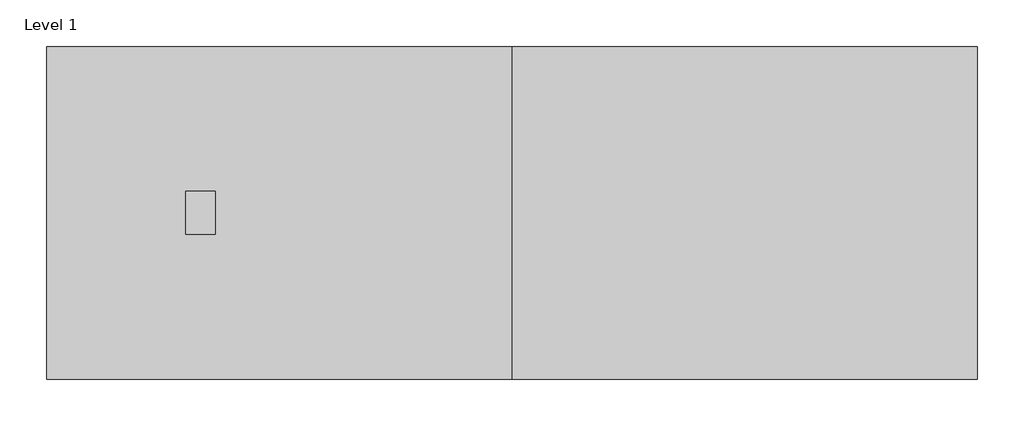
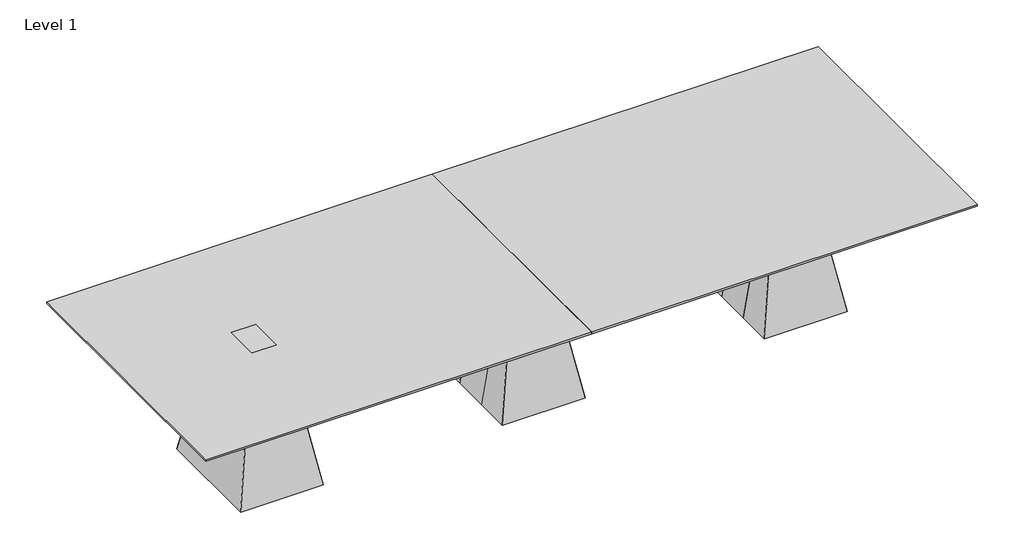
# One storey: 25 proxies.
"""IFC4 building model written with IfcOpenShell, lengths in millimetres."""

from ifc_helpers import new_model, si_unit, origin, place, context, project, spatial, transform, mapped, element, save
from components import generic_models_51c01d00, generic_models_597a183f, generic_models_c5b3a9b2, generic_models_d6f1b84a, generic_models_e4cfc86e, generic_models_6a6425c0, generic_models_c6574abe, generic_models_c5948c30, generic_models_5c3ddc13, generic_models_d9a1c585, generic_models_194ffc6f, generic_models_9ee26a7e, generic_models_b4308882, generic_models_69105aee, generic_models_d5f98654, generic_models_97a5e2a9, generic_models_23fda1b8

model = new_model("IFC4")

# Units and contexts
model_context = context("Model", 3, world=origin())
ifc_project = project(units=[si_unit("LENGTHUNIT", "METRE", prefix="MILLI")], contexts=[model_context])

# Site, building, storey
site = spatial("IfcSite", under=ifc_project)
building = spatial("IfcBuilding", under=site)
storey = spatial("IfcBuildingStorey", under=building, Name="Level 1", Elevation=0.0)

# Proxies
placement = place(None, origin())
generic_models_shape = generic_models_51c01d00(model_context)
element("IfcBuildingElementProxy", 1, Name="GRADIENT^TABLE 7_PYRAMID BASES-END BASE LEFT WING", ObjectType="GRADIENT^TABLE 7_PYRAMID BASES-END BASE LEFT WING", at=placement, inside=storey, context=model_context, shape_type="MappedRepresentation", body=[
    mapped(generic_models_shape, transform((0.0, 0.0, 0.0), x_axis=(1.0, 0.0, 0.0), y_axis=(0.0, 0.0, 1.0), z_axis=(0.0, -1.0, 0.0))),
])
element("IfcBuildingElementProxy", 2, Name="GRADIENT^TABLE 7_PYRAMID BASES-END BASE LEFT WING", ObjectType="GRADIENT^TABLE 7_PYRAMID BASES-END BASE LEFT WING", at=placement, inside=storey, context=model_context, shape_type="MappedRepresentation", body=[
    mapped(generic_models_shape, transform((4267.2, 1524.0, 0.0), x_axis=(-1.0, 0.0, 0.0), y_axis=(0.0, 0.0, 1.0), z_axis=(0.0, 1.0, 0.0))),
])
generic_models_2_shape = generic_models_597a183f(model_context)
element("IfcBuildingElementProxy", 3, Name="GRADIENT^TABLE 7_PYRAMID BASES-END BASE RIGHT SIDE", ObjectType="GRADIENT^TABLE 7_PYRAMID BASES-END BASE RIGHT SIDE", at=placement, inside=storey, context=model_context, shape_type="MappedRepresentation", body=[
    mapped(generic_models_2_shape, transform((4267.2, 1524.0, 0.0), x_axis=(-1.0, 0.0, 0.0), y_axis=(0.0, 0.0, 1.0), z_axis=(0.0, 1.0, 0.0))),
])
element("IfcBuildingElementProxy", 4, Name="GRADIENT^TABLE 7_PYRAMID BASES-END BASE RIGHT SIDE", ObjectType="GRADIENT^TABLE 7_PYRAMID BASES-END BASE RIGHT SIDE", at=placement, inside=storey, context=model_context, shape_type="MappedRepresentation", body=[
    mapped(generic_models_2_shape, transform((0.0, 0.0, 0.0), x_axis=(1.0, 0.0, 0.0), y_axis=(0.0, 0.0, 1.0), z_axis=(0.0, -1.0, 0.0))),
])
generic_models_3_shape = generic_models_c5b3a9b2(model_context)
element("IfcBuildingElementProxy", 5, Name="GRADIENT^TABLE 7_PYRAMID BASES-END BASE LEFT SIDE", ObjectType="GRADIENT^TABLE 7_PYRAMID BASES-END BASE LEFT SIDE", at=placement, inside=storey, context=model_context, shape_type="MappedRepresentation", body=[
    mapped(generic_models_3_shape, transform((4267.2, 1524.0, 0.0), x_axis=(-1.0, 0.0, 0.0), y_axis=(0.0, 0.0, 1.0), z_axis=(0.0, 1.0, 0.0))),
])
element("IfcBuildingElementProxy", 6, Name="GRADIENT^TABLE 7_PYRAMID BASES-END BASE LEFT SIDE", ObjectType="GRADIENT^TABLE 7_PYRAMID BASES-END BASE LEFT SIDE", at=placement, inside=storey, context=model_context, shape_type="MappedRepresentation", body=[
    mapped(generic_models_3_shape, transform((0.0, 0.0, 0.0), x_axis=(1.0, 0.0, 0.0), y_axis=(0.0, 0.0, 1.0), z_axis=(0.0, -1.0, 0.0))),
])
generic_models_4_shape = generic_models_d6f1b84a(model_context)
element("IfcBuildingElementProxy", 7, Name="GRADIENT^TABLE 7_PYRAMID BASES-CTR BASE LEFT SIDE", ObjectType="GRADIENT^TABLE 7_PYRAMID BASES-CTR BASE LEFT SIDE", at=placement, inside=storey, context=model_context, shape_type="MappedRepresentation", body=[
    mapped(generic_models_4_shape, transform((0.0, 0.0, 0.0), x_axis=(1.0, 0.0, 0.0), y_axis=(0.0, 0.0, 1.0), z_axis=(0.0, -1.0, 0.0))),
])
generic_models_5_shape = generic_models_e4cfc86e(model_context)
element("IfcBuildingElementProxy", 8, Name="GRADIENT^TABLE 7_PYRAMID BASES-CTR BASE RIGHT WING", ObjectType="GRADIENT^TABLE 7_PYRAMID BASES-CTR BASE RIGHT WING", at=placement, inside=storey, context=model_context, shape_type="MappedRepresentation", body=[
    mapped(generic_models_5_shape, transform((0.0, 0.0, 0.0), x_axis=(1.0, 0.0, 0.0), y_axis=(0.0, 0.0, 1.0), z_axis=(0.0, -1.0, 0.0))),
])
generic_models_6_shape = generic_models_6a6425c0(model_context)
element("IfcBuildingElementProxy", 9, Name="GRADIENT^TABLE 7_PYRAMID BASES-END BASE BOTTOM", ObjectType="GRADIENT^TABLE 7_PYRAMID BASES-END BASE BOTTOM", at=placement, inside=storey, context=model_context, shape_type="MappedRepresentation", body=[
    mapped(generic_models_6_shape, transform((0.0, 0.0, 0.0), x_axis=(1.0, 0.0, 0.0), y_axis=(0.0, 0.0, 1.0), z_axis=(0.0, -1.0, 0.0))),
])
element("IfcBuildingElementProxy", 10, Name="GRADIENT^TABLE 7_PYRAMID BASES-END BASE BOTTOM", ObjectType="GRADIENT^TABLE 7_PYRAMID BASES-END BASE BOTTOM", at=placement, inside=storey, context=model_context, shape_type="MappedRepresentation", body=[
    mapped(generic_models_6_shape, transform((4267.2, 1524.0, 0.0), x_axis=(-1.0, 0.0, 0.0), y_axis=(0.0, 0.0, 1.0), z_axis=(0.0, 1.0, 0.0))),
])
generic_models_7_shape = generic_models_c6574abe(model_context)
element("IfcBuildingElementProxy", 11, Name="GRADIENT^TABLE 7_PYRAMID BASES-END BASE RIGHT WING", ObjectType="GRADIENT^TABLE 7_PYRAMID BASES-END BASE RIGHT WING", at=placement, inside=storey, context=model_context, shape_type="MappedRepresentation", body=[
    mapped(generic_models_7_shape, transform((4267.2, 1524.0, 0.0), x_axis=(-1.0, 0.0, 0.0), y_axis=(0.0, 0.0, 1.0), z_axis=(0.0, 1.0, 0.0))),
])
element("IfcBuildingElementProxy", 12, Name="GRADIENT^TABLE 7_PYRAMID BASES-END BASE RIGHT WING", ObjectType="GRADIENT^TABLE 7_PYRAMID BASES-END BASE RIGHT WING", at=placement, inside=storey, context=model_context, shape_type="MappedRepresentation", body=[
    mapped(generic_models_7_shape, transform((0.0, 0.0, 0.0), x_axis=(1.0, 0.0, 0.0), y_axis=(0.0, 0.0, 1.0), z_axis=(0.0, -1.0, 0.0))),
])
generic_models_8_shape = generic_models_c5948c30(model_context)
element("IfcBuildingElementProxy", 13, Name="GRADIENT^TABLE 7_PYRAMID BASES-RIGHT TOP", ObjectType="GRADIENT^TABLE 7_PYRAMID BASES-RIGHT TOP", at=placement, inside=storey, context=model_context, shape_type="MappedRepresentation", body=[
    mapped(generic_models_8_shape, transform((0.0, 0.0, 0.0), x_axis=(1.0, 0.0, 0.0), y_axis=(0.0, 0.0, 1.0), z_axis=(0.0, -1.0, 0.0))),
])
generic_models_9_shape = generic_models_5c3ddc13(model_context)
element("IfcBuildingElementProxy", 14, Name="GRADIENT^TABLE 7_PYRAMID BASES-END BASE BACK", ObjectType="GRADIENT^TABLE 7_PYRAMID BASES-END BASE BACK", at=placement, inside=storey, context=model_context, shape_type="MappedRepresentation", body=[
    mapped(generic_models_9_shape, transform((4267.2, 1524.0, 0.0), x_axis=(-1.0, 0.0, 0.0), y_axis=(0.0, 0.0, 1.0), z_axis=(0.0, 1.0, 0.0))),
])
element("IfcBuildingElementProxy", 15, Name="GRADIENT^TABLE 7_PYRAMID BASES-END BASE BACK", ObjectType="GRADIENT^TABLE 7_PYRAMID BASES-END BASE BACK", at=placement, inside=storey, context=model_context, shape_type="MappedRepresentation", body=[
    mapped(generic_models_9_shape, transform((0.0, 0.0, 0.0), x_axis=(1.0, 0.0, 0.0), y_axis=(0.0, 0.0, 1.0), z_axis=(0.0, -1.0, 0.0))),
])
generic_models_10_shape = generic_models_d9a1c585(model_context)
element("IfcBuildingElementProxy", 16, Name="GRADIENT^TABLE 7_PYRAMID BASES-CTR BASE BACK", ObjectType="GRADIENT^TABLE 7_PYRAMID BASES-CTR BASE BACK", at=placement, inside=storey, context=model_context, shape_type="MappedRepresentation", body=[
    mapped(generic_models_10_shape, transform((0.0, 0.0, 0.0), x_axis=(1.0, 0.0, 0.0), y_axis=(0.0, 0.0, 1.0), z_axis=(0.0, -1.0, 0.0))),
])
generic_models_11_shape = generic_models_194ffc6f(model_context)
element("IfcBuildingElementProxy", 17, Name="GRADIENT^TABLE 7_PYRAMID BASES-POWER LID", ObjectType="GRADIENT^TABLE 7_PYRAMID BASES-POWER LID", at=placement, inside=storey, context=model_context, shape_type="MappedRepresentation", body=[
    mapped(generic_models_11_shape, transform((772.5058489, 860.425, 19.05), x_axis=(0.0, -1.0, 0.0), y_axis=(0.0, 0.0, 1.0), z_axis=(-1.0, 0.0, 0.0))),
])
element("IfcBuildingElementProxy", 18, Name="GRADIENT^TABLE 7_PYRAMID BASES-POWER LID", ObjectType="GRADIENT^TABLE 7_PYRAMID BASES-POWER LID", at=placement, inside=storey, context=model_context, shape_type="MappedRepresentation", body=[
    mapped(generic_models_11_shape, transform((3494.6941511, 663.575, 19.05), x_axis=(0.0, 1.0, 0.0), y_axis=(0.0, 0.0, 1.0), z_axis=(1.0, 0.0, 0.0))),
])
generic_models_12_shape = generic_models_9ee26a7e(model_context)
element("IfcBuildingElementProxy", 19, Name="GRADIENT^TABLE 7_PYRAMID BASES-END BASE ACCESS", ObjectType="GRADIENT^TABLE 7_PYRAMID BASES-END BASE ACCESS", at=placement, inside=storey, context=model_context, shape_type="MappedRepresentation", body=[
    mapped(generic_models_12_shape, transform((0.0, 0.0, 0.0), x_axis=(1.0, 0.0, 0.0), y_axis=(0.0, 0.0, 1.0), z_axis=(0.0, -1.0, 0.0))),
])
element("IfcBuildingElementProxy", 20, Name="GRADIENT^TABLE 7_PYRAMID BASES-END BASE ACCESS", ObjectType="GRADIENT^TABLE 7_PYRAMID BASES-END BASE ACCESS", at=placement, inside=storey, context=model_context, shape_type="MappedRepresentation", body=[
    mapped(generic_models_12_shape, transform((4267.2, 1524.0, 0.0), x_axis=(-1.0, 0.0, 0.0), y_axis=(0.0, 0.0, 1.0), z_axis=(0.0, 1.0, 0.0))),
])
generic_models_13_shape = generic_models_b4308882(model_context)
element("IfcBuildingElementProxy", 21, Name="GRADIENT^TABLE 7_PYRAMID BASES-CTR BASE LEFT WING", ObjectType="GRADIENT^TABLE 7_PYRAMID BASES-CTR BASE LEFT WING", at=placement, inside=storey, context=model_context, shape_type="MappedRepresentation", body=[
    mapped(generic_models_13_shape, transform((0.0, 0.0, 0.0), x_axis=(1.0, 0.0, 0.0), y_axis=(0.0, 0.0, 1.0), z_axis=(0.0, -1.0, 0.0))),
])
generic_models_14_shape = generic_models_69105aee(model_context)
element("IfcBuildingElementProxy", 22, Name="GRADIENT^TABLE 7_PYRAMID BASES-CTR BASE ACCESS", ObjectType="GRADIENT^TABLE 7_PYRAMID BASES-CTR BASE ACCESS", at=placement, inside=storey, context=model_context, shape_type="MappedRepresentation", body=[
    mapped(generic_models_14_shape, transform((0.0, 0.0, 0.0), x_axis=(1.0, 0.0, 0.0), y_axis=(0.0, 0.0, 1.0), z_axis=(0.0, -1.0, 0.0))),
])
generic_models_15_shape = generic_models_d5f98654(model_context)
element("IfcBuildingElementProxy", 23, Name="GRADIENT^TABLE 7_PYRAMID BASES-LEFT TOP", ObjectType="GRADIENT^TABLE 7_PYRAMID BASES-LEFT TOP", at=placement, inside=storey, context=model_context, shape_type="MappedRepresentation", body=[
    mapped(generic_models_15_shape, transform((0.0, 0.0, 0.0), x_axis=(1.0, 0.0, 0.0), y_axis=(0.0, 0.0, 1.0), z_axis=(0.0, -1.0, 0.0))),
])
generic_models_16_shape = generic_models_97a5e2a9(model_context)
element("IfcBuildingElementProxy", 24, Name="GRADIENT^TABLE 7_PYRAMID BASES-CTR BASE BOTTOM", ObjectType="GRADIENT^TABLE 7_PYRAMID BASES-CTR BASE BOTTOM", at=placement, inside=storey, context=model_context, shape_type="MappedRepresentation", body=[
    mapped(generic_models_16_shape, transform((0.0, 0.0, 0.0), x_axis=(1.0, 0.0, 0.0), y_axis=(0.0, 0.0, 1.0), z_axis=(0.0, -1.0, 0.0))),
])
generic_models_17_shape = generic_models_23fda1b8(model_context)
element("IfcBuildingElementProxy", 25, Name="GRADIENT^TABLE 7_PYRAMID BASES-CTR BASE RIGHT SIDE", ObjectType="GRADIENT^TABLE 7_PYRAMID BASES-CTR BASE RIGHT SIDE", at=placement, inside=storey, context=model_context, shape_type="MappedRepresentation", body=[
    mapped(generic_models_17_shape, transform((0.0, 0.0, 0.0), x_axis=(1.0, 0.0, 0.0), y_axis=(0.0, 0.0, 1.0), z_axis=(0.0, -1.0, 0.0))),
])

save(model, "model.ifc")
